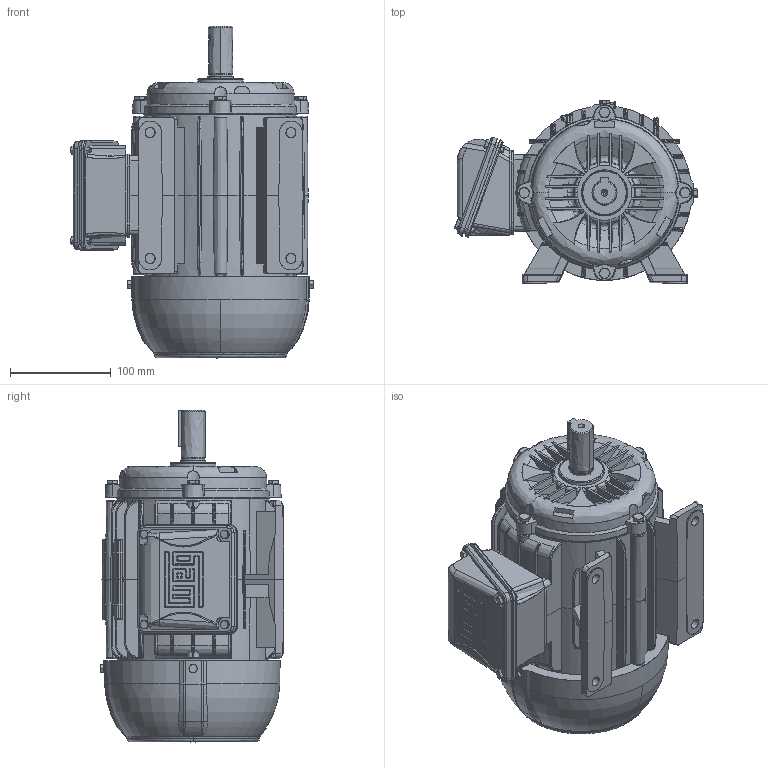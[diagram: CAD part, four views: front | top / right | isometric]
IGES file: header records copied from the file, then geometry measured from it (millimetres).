
Start section: SolidWorks IGES file using analytic representation for surfaces
Global section: file name: C:\Users\docbuilder\AppData\Local\Temp\1\66fc8d29\c1d5.IGS; native system: SolidWorks 2018; preprocessor: SolidWorks 2018; author: docbuilder; date: 230425.142857; units: millimetre
Bounding box: 241.22 x 182.24 x 330 mm (x, y, z)
Surface area: 451210.9 mm2 (no closed solid volume)
Topology: 0 solids, 0 shells, 2616 faces, 27814 edges, 27798 vertices
Faces by surface type: bspline 1549, revolution 1067
